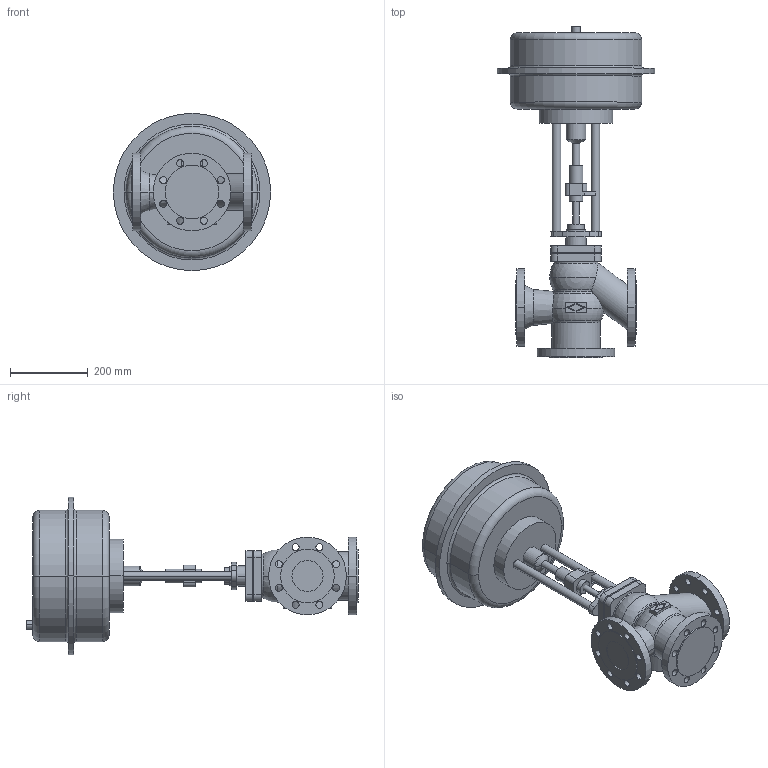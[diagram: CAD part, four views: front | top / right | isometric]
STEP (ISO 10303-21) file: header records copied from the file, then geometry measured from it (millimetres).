
FILE_DESCRIPTION(('OneSpaceDesigner STEP Export'),'2;1');
FILE_NAME('c000000700.stp','2006-09-19T10:21:05',(''),(''),'OneSpace Designer STEP processor for AP214 (Solid Model)','OneSpace Designer 13.20A 18-Aug-2005 (C) CoCreate Software GmbH','');
FILE_SCHEMA(('AUTOMOTIVE_DESIGN { 1 0 10303 214 1 1 1 1 }'));
Length unit declared in the file: millimetre
Products named in the file (2): 1; 2
Bounding box: 405 x 854.5 x 405 mm (x, y, z)
Volume: 26680125.3 mm3; surface area: 975482.9 mm2
Topology: 2 solids, 2 shells, 225 faces, 563 edges, 366 vertices
Faces by surface type: cylinder 120, plane 72, torus 23, cone 6, sphere 4
Entity records: 6245 total; most frequent: CARTESIAN_POINT 1311, ORIENTED_EDGE 1118, DIRECTION 880, EDGE_CURVE 559, VERTEX_POINT 366, AXIS2_PLACEMENT_3D 325, EDGE_LOOP 301, VECTOR 230
